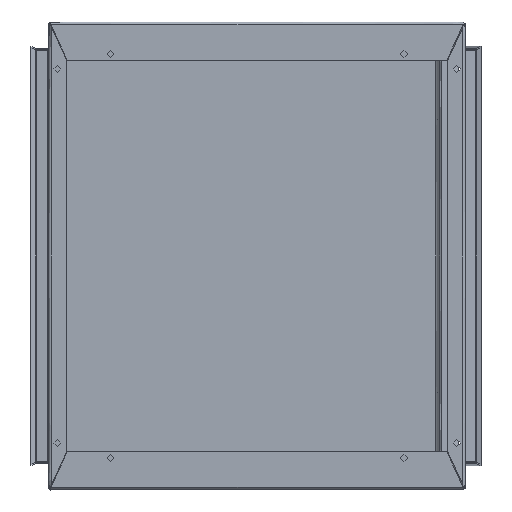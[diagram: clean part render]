
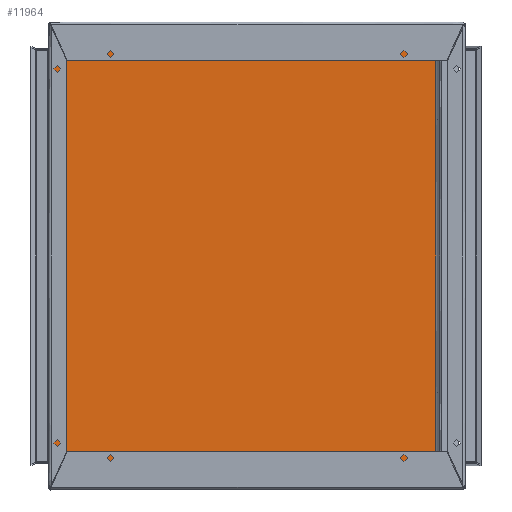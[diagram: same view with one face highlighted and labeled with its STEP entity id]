
A CAD part, front view. The second image highlights one B-rep face of the part: STEP entity #11964.
In plain terms, the highlighted free-form (B-spline) face has degree [1, 1] with [2, 2] control points.
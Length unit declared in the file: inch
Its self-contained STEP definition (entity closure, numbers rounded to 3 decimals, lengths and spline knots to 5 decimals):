
#11571=CARTESIAN_POINT('V4',(18.61493,25.63975,
   23.68436));
#11572=VERTEX_POINT('V4',#11571);
#11573=CARTESIAN_POINT('V3',(18.61493,25.63975,
   23.67895));
#11574=VERTEX_POINT('V3',#11573);
#11575=CARTESIAN_POINT('E3',(18.61493,25.63975,
   23.68436));
#11576=CARTESIAN_POINT('E3',(18.61493,25.63975,
   23.67895));
#11577=QUASI_UNIFORM_CURVE('E3',1,(#11575,#11576),.POLYLINE_FORM.,
   .F.,.U.);
#11578=EDGE_CURVE('E3',#11572,#11574,#11577,.T.);
#11607=CARTESIAN_POINT('V5',(-1.18933,25.63975,
   23.68436));
#11608=VERTEX_POINT('V5',#11607);
#11609=CARTESIAN_POINT('E4',(-1.18933,25.63975,
   23.68436));
#11610=CARTESIAN_POINT('E4',(18.61493,25.63975,
   23.68436));
#11611=QUASI_UNIFORM_CURVE('E4',1,(#11609,#11610),.POLYLINE_FORM.,
   .F.,.U.);
#11612=EDGE_CURVE('E4',#11608,#11572,#11611,.T.);
#11635=CARTESIAN_POINT('V6',(-1.18933,25.63975,
   23.67891));
#11636=VERTEX_POINT('V6',#11635);
#11637=CARTESIAN_POINT('E5',(-1.18933,25.63975,
   23.67891));
#11638=CARTESIAN_POINT('E5',(-1.18933,25.63975,
   23.68436));
#11639=QUASI_UNIFORM_CURVE('E5',1,(#11637,#11638),.POLYLINE_FORM.,
   .F.,.U.);
#11640=EDGE_CURVE('E5',#11636,#11608,#11639,.T.);
#11663=CARTESIAN_POINT('V7',(-1.12933,25.63975,
   23.67891));
#11664=VERTEX_POINT('V7',#11663);
#11665=CARTESIAN_POINT('E6',(-1.12933,25.63975,
   23.67891));
#11666=CARTESIAN_POINT('E6',(-1.18933,25.63975,
   23.67891));
#11667=QUASI_UNIFORM_CURVE('E6',1,(#11665,#11666),.POLYLINE_FORM.,
   .F.,.U.);
#11668=EDGE_CURVE('E6',#11664,#11636,#11667,.T.);
#11722=CARTESIAN_POINT('V8',(-1.12933,25.63975,
   -0.06319));
#11723=VERTEX_POINT('V8',#11722);
#11724=CARTESIAN_POINT('E7',(-1.12933,25.63975,
   -0.06319));
#11725=CARTESIAN_POINT('E7',(-1.12933,25.63975,
   23.67891));
#11726=QUASI_UNIFORM_CURVE('E7',1,(#11724,#11725),.POLYLINE_FORM.,
   .F.,.U.);
#11727=EDGE_CURVE('E7',#11723,#11664,#11726,.T.);
#11770=CARTESIAN_POINT('V9',(-1.18933,25.63975,
   -0.06319));
#11771=VERTEX_POINT('V9',#11770);
#11772=CARTESIAN_POINT('E8',(-1.18933,25.63975,
   -0.06319));
#11773=CARTESIAN_POINT('E8',(-1.12933,25.63975,
   -0.06319));
#11774=QUASI_UNIFORM_CURVE('E8',1,(#11772,#11773),.POLYLINE_FORM.,
   .F.,.U.);
#11775=EDGE_CURVE('E8',#11771,#11723,#11774,.T.);
#11798=CARTESIAN_POINT('V10',(-1.18933,25.63975,
   -0.06864));
#11799=VERTEX_POINT('V10',#11798);
#11800=CARTESIAN_POINT('E9',(-1.18933,25.63975,
   -0.06864));
#11801=CARTESIAN_POINT('E9',(-1.18933,25.63975,
   -0.06319));
#11802=QUASI_UNIFORM_CURVE('E9',1,(#11800,#11801),.POLYLINE_FORM.,
   .F.,.U.);
#11803=EDGE_CURVE('E9',#11799,#11771,#11802,.T.);
#11826=CARTESIAN_POINT('V11',(18.61493,25.63975,
   -0.06864));
#11827=VERTEX_POINT('V11',#11826);
#11828=CARTESIAN_POINT('E10',(18.61493,25.63975,
   -0.06864));
#11829=CARTESIAN_POINT('E10',(-1.18933,25.63975,
   -0.06864));
#11830=QUASI_UNIFORM_CURVE('E10',1,(#11828,#11829),.POLYLINE_FORM.,
   .F.,.U.);
#11831=EDGE_CURVE('E10',#11827,#11799,#11830,.T.);
#11854=CARTESIAN_POINT('V12',(18.61493,25.63975,
   -0.06323));
#11855=VERTEX_POINT('V12',#11854);
#11856=CARTESIAN_POINT('E11',(18.61493,25.63975,
   -0.06323));
#11857=CARTESIAN_POINT('E11',(18.61493,25.63975,
   -0.06864));
#11858=QUASI_UNIFORM_CURVE('E11',1,(#11856,#11857),.POLYLINE_FORM.,
   .F.,.U.);
#11859=EDGE_CURVE('E11',#11855,#11827,#11858,.T.);
#11918=CARTESIAN_POINT('V2',(18.55995,25.63975,
   23.67895));
#11919=VERTEX_POINT('V2',#11918);
#11920=CARTESIAN_POINT('E2',(18.61493,25.63975,
   23.67895));
#11921=CARTESIAN_POINT('E2',(18.55995,25.63975,
   23.67895));
#11922=QUASI_UNIFORM_CURVE('E2',1,(#11920,#11921),.POLYLINE_FORM.,
   .F.,.U.);
#11923=EDGE_CURVE('E2',#11574,#11919,#11922,.T.);
#11935=CARTESIAN_POINT('F2',(-1.19051,25.63975,
   -0.06982));
#11936=CARTESIAN_POINT('F2',(-1.19051,25.63975,
   23.68554));
#11937=CARTESIAN_POINT('F2',(18.61611,25.63975,
   -0.06982));
#11938=CARTESIAN_POINT('F2',(18.61611,25.63975,
   23.68554));
#11939=B_SPLINE_SURFACE_WITH_KNOTS('F2',1,1,((#11935,#11937),(
   #11936,#11938)),.PLANE_SURF.,.F.,.F.,.U.,(2,2),(2,2),(0.0,
   1.19936),(0.0,1.0),.UNSPECIFIED.);
#11940=ORIENTED_EDGE('E2',*,*,#11923,.F.);
#11941=ORIENTED_EDGE('E3',*,*,#11578,.F.);
#11942=ORIENTED_EDGE('E4',*,*,#11612,.F.);
#11943=ORIENTED_EDGE('E5',*,*,#11640,.F.);
#11944=ORIENTED_EDGE('E6',*,*,#11668,.F.);
#11945=ORIENTED_EDGE('E7',*,*,#11727,.F.);
#11946=ORIENTED_EDGE('E8',*,*,#11775,.F.);
#11947=ORIENTED_EDGE('E9',*,*,#11803,.F.);
#11948=ORIENTED_EDGE('E10',*,*,#11831,.F.);
#11949=ORIENTED_EDGE('E11',*,*,#11859,.F.);
#11950=CARTESIAN_POINT('V1',(18.55995,25.63975,
   -0.06323));
#11951=VERTEX_POINT('V1',#11950);
#11952=CARTESIAN_POINT('E12',(18.55995,25.63975,
   -0.06323));
#11953=CARTESIAN_POINT('E12',(18.61493,25.63975,
   -0.06323));
#11954=QUASI_UNIFORM_CURVE('E12',1,(#11952,#11953),.POLYLINE_FORM.,
   .F.,.U.);
#11955=EDGE_CURVE('E12',#11951,#11855,#11954,.T.);
#11956=ORIENTED_EDGE('E12',*,*,#11955,.F.);
#11957=CARTESIAN_POINT('E1',(18.55995,25.63975,
   23.67895));
#11958=CARTESIAN_POINT('E1',(18.55995,25.63975,
   -0.06323));
#11959=QUASI_UNIFORM_CURVE('E1',1,(#11957,#11958),.POLYLINE_FORM.,
   .F.,.U.);
#11960=EDGE_CURVE('E1',#11919,#11951,#11959,.T.);
#11961=ORIENTED_EDGE('E1',*,*,#11960,.F.);
#11962=EDGE_LOOP('F2',(#11940,#11941,#11942,#11943,#11944,#11945,
   #11946,#11947,#11948,#11949,#11956,#11961));
#11963=FACE_OUTER_BOUND('F2',#11962,.T.);
#11964=ADVANCED_FACE('F2',(#11963),#11939,.F.);
